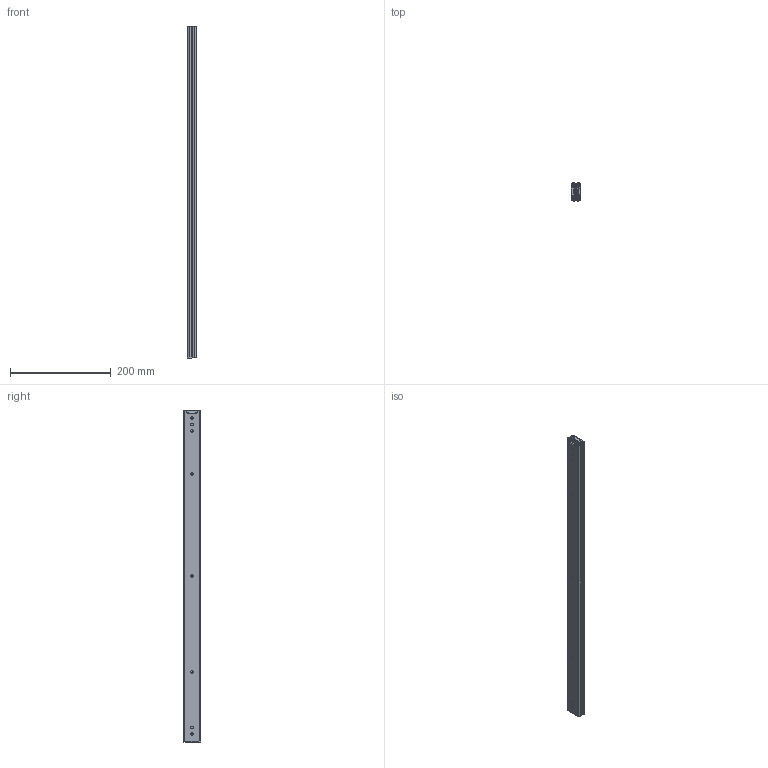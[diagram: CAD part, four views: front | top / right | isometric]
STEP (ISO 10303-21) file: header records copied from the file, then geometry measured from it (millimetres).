
FILE_DESCRIPTION (( 'STEP AP214' ), '1' );
FILE_NAME ('3560-650-closed.STEP', '2024-08-20T05:30:23', ( '' ), ( '' ), 'SwSTEP 2.0', 'SolidWorks 2024', '' );
FILE_SCHEMA (( 'AUTOMOTIVE_DESIGN' ));
Length unit declared in the file: millimetre
Products named in the file (4): 3560-650-closed; 26065P1-26''''.stp_Part29; 26065P3-26''''.stp_Part30; CAD_3560-650_TelescopicRailLight_Rollco.stp_Assem15
Assembly tree (5 placements, depth 3):
  3560-650-closed
    CAD_3560-650_TelescopicRailLight_Rollco.stp_Assem15
      26065P1-26''''.stp_Part29  x2
      26065P3-26''''.stp_Part30  x2
Bounding box: 19.6 x 35.28 x 660.4 mm (x, y, z)
Surface area: 217744.8 mm2 (no closed solid volume)
Topology: 0 solids, 4 shells, 306 faces, 882 edges, 584 vertices
Faces by surface type: cylinder 162, plane 144
Entity records: 6501 total; most frequent: CARTESIAN_POINT 3189, ORIENTED_EDGE 882, EDGE_CURVE 441, B_SPLINE_CURVE_WITH_KNOTS 428, DIRECTION 337, VERTEX_POINT 292, EDGE_LOOP 177, AXIS2_PLACEMENT_3D 162
